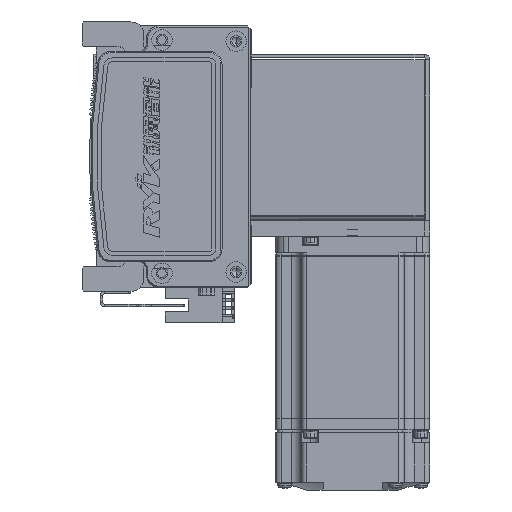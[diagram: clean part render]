
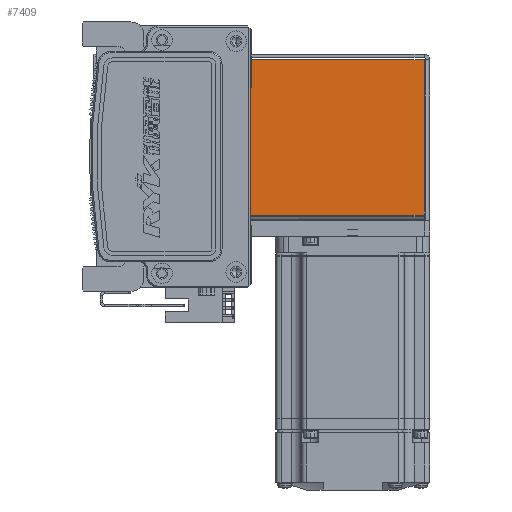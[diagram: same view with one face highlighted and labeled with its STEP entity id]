
A CAD part, left-side view. The second image highlights one B-rep face of the part: STEP entity #7409.
In plain terms, the highlighted planar face has unit normal (-1, 0, 0) as drawn and (0, 0, -1) by its records, which use the part's own axes.
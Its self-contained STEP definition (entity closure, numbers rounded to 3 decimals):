
#3336 = VERTEX_POINT ( 'NONE', #51002 ) ;
#5109 = VECTOR ( 'NONE', #44413, 1000. ) ;
#7409 = ADVANCED_FACE ( 'NONE', ( #13618 ), #62188, .F. ) ;
#7792 = CARTESIAN_POINT ( 'NONE',  ( 30.263, 72.5, -35. ) ) ;
#7876 = DIRECTION ( 'NONE',  ( 0., 1., 0. ) ) ;
#11897 = VERTEX_POINT ( 'NONE', #29054 ) ;
#13618 = FACE_OUTER_BOUND ( 'NONE', #17196, .T. ) ;
#15966 = LINE ( 'NONE', #26174, #38121 ) ;
#17196 = EDGE_LOOP ( 'NONE', ( #20471, #31200, #34630, #52745 ) ) ;
#17390 = CARTESIAN_POINT ( 'NONE',  ( -30.293, 72.5, -35. ) ) ;
#18684 = LINE ( 'NONE', #69362, #75831 ) ;
#20471 = ORIENTED_EDGE ( 'NONE', *, *, #64685, .T. ) ;
#20777 = VECTOR ( 'NONE', #70851, 1000. ) ;
#21228 = CARTESIAN_POINT ( 'NONE',  ( 0., 0., -35. ) ) ;
#26174 = CARTESIAN_POINT ( 'NONE',  ( -30.293, 0., -35. ) ) ;
#26641 = DIRECTION ( 'NONE',  ( 0., 0., 1. ) ) ;
#28634 = DIRECTION ( 'NONE',  ( 0., -1., 0. ) ) ;
#29054 = CARTESIAN_POINT ( 'NONE',  ( 30.263, 0.737, -35. ) ) ;
#31200 = ORIENTED_EDGE ( 'NONE', *, *, #60238, .F. ) ;
#32290 = DIRECTION ( 'NONE',  ( 0., -1., 0. ) ) ;
#34630 = ORIENTED_EDGE ( 'NONE', *, *, #61659, .T. ) ;
#38121 = VECTOR ( 'NONE', #7876, 1000. ) ;
#43868 = LINE ( 'NONE', #61665, #5109 ) ;
#44413 = DIRECTION ( 'NONE',  ( 1., 0., 0. ) ) ;
#47130 = CARTESIAN_POINT ( 'NONE',  ( 32.5, 0.737, -35. ) ) ;
#47578 = LINE ( 'NONE', #47130, #20777 ) ;
#48770 = AXIS2_PLACEMENT_3D ( 'NONE', #21228, #26641, #32290 ) ;
#51002 = CARTESIAN_POINT ( 'NONE',  ( -30.293, 0.737, -35. ) ) ;
#51292 = VERTEX_POINT ( 'NONE', #17390 ) ;
#52745 = ORIENTED_EDGE ( 'NONE', *, *, #56029, .T. ) ;
#56029 = EDGE_CURVE ( 'NONE', #51292, #64366, #43868, .T. ) ;
#60238 = EDGE_CURVE ( 'NONE', #3336, #11897, #47578, .T. ) ;
#61659 = EDGE_CURVE ( 'NONE', #3336, #51292, #15966, .T. ) ;
#61665 = CARTESIAN_POINT ( 'NONE',  ( 0., 72.5, -35. ) ) ;
#62188 = PLANE ( 'NONE',  #48770 ) ;
#64366 = VERTEX_POINT ( 'NONE', #7792 ) ;
#64685 = EDGE_CURVE ( 'NONE', #64366, #11897, #18684, .T. ) ;
#69362 = CARTESIAN_POINT ( 'NONE',  ( 30.263, 72.5, -35. ) ) ;
#70851 = DIRECTION ( 'NONE',  ( 1., 0., 0. ) ) ;
#75831 = VECTOR ( 'NONE', #28634, 1000. ) ;
